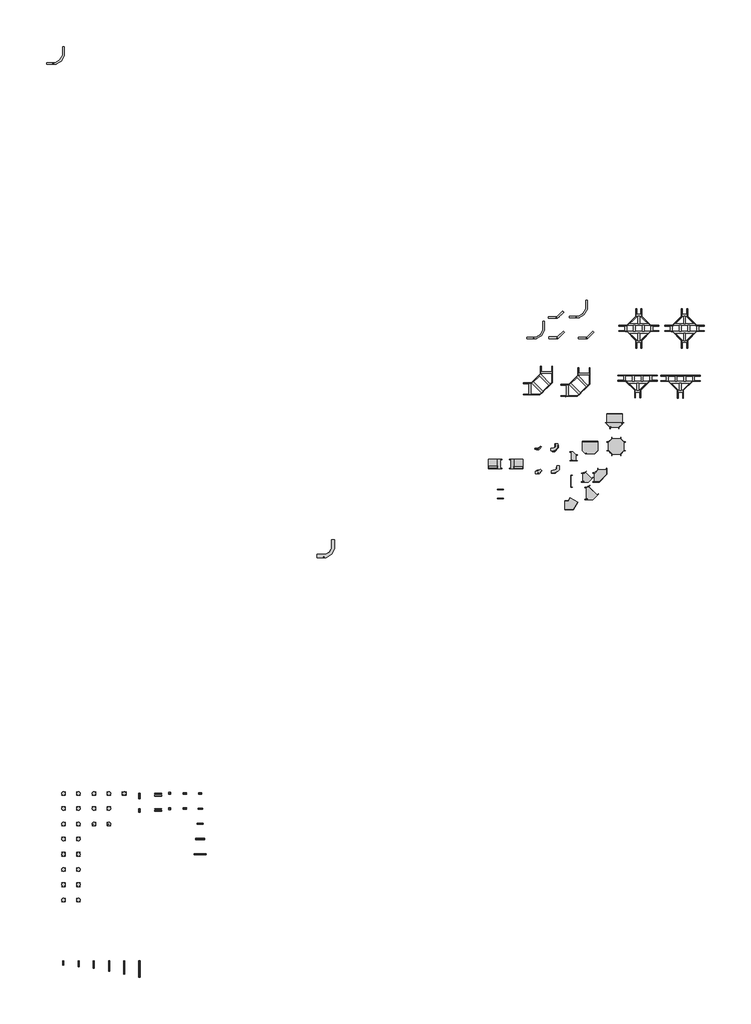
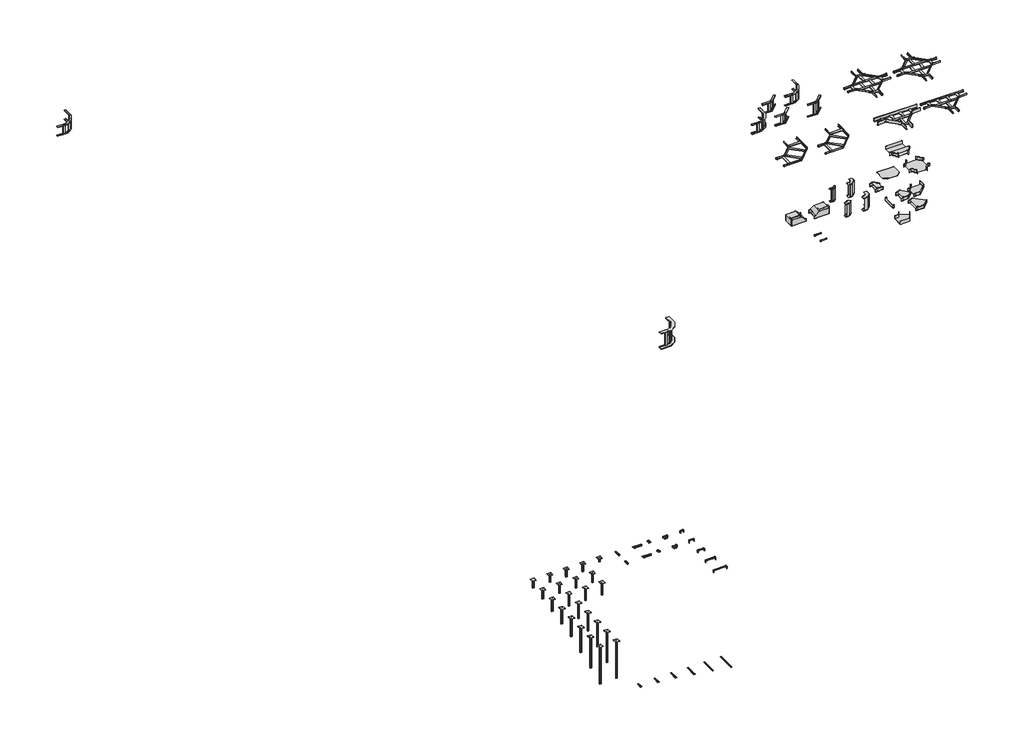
# One storey, incomplete: 42 proxies, 37 cable carrier fittings.
"""IFC4 building model written with IfcOpenShell, lengths in millimetres."""

from ifc_helpers import new_model, si_unit, origin, place, context, project, spatial, transform, mapped, element, save
from components import generic_models_40aa2584, generic_models_932f35b6, generic_models_3aaec662, generic_models_c162aa8f, generic_models_ff980f85, generic_models_6e2b5e47, generic_models_558c0930, generic_models_236f3ef3, generic_models_f578f368, generic_models_0390d1ad, generic_models_a3f2ea63, generic_models_736fe222, generic_models_55f142c9, generic_models_6eeadc8e, generic_models_a440815e, okb_c7ba4bf2, okm_523b57e4, pst1000_420f6fb0, pst1200_ad20b11f, pst250_26485013, pst300_8e1cfdff, pst400_6ce9062d, pst500_9f6673d8, pst600_b876f94e, pst800_dcbf87bc, sps100_17b1288e, sps150_d7ba73ae, sps200_42d4b807, sps300_ad1d5cba, sps400_334b0b22, upp150_12ecaf3b, upp200_35eb6cb5, upp250_bc306a6a, upp350_077b014d, upp450_d01de616, upp550_d4d7eb24, upt250_07c40e42, upt300_a44f2827, upt400_fccfb55f, cable_carrier_fitting_9e5f0a06, cable_carrier_fitting_ba0ea89d, cable_carrier_fitting_62d317b6, cable_carrier_fitting_89958acc, cable_carrier_fitting_019c2cc3, cable_carrier_fitting_d3f8336c, cable_carrier_fitting_606896c7, cable_carrier_fitting_a40b3fd0, cable_carrier_fitting_00c6798b, cable_carrier_fitting_76a80729, cable_carrier_fitting_c130e9fd, cable_carrier_fitting_771aacc1, cable_carrier_fitting_28980c71, cable_carrier_fitting_a9c2bbf1, cable_carrier_fitting_7e0096a5, cable_carrier_fitting_2c5ead5b, cable_carrier_fitting_8e6cfca8, cable_carrier_fitting_df56046e, cable_carrier_fitting_7de7f101, cable_carrier_fitting_8d4a2e80, cable_carrier_fitting_0a35e445, cable_carrier_fitting_1c14abe9, cable_carrier_fitting_bcb73243, cable_carrier_fitting_205fb93f, cable_carrier_fitting_1a4faf06, cable_carrier_fitting_b00d838e, cable_carrier_fitting_356c1660, cable_carrier_fitting_4f7fa4ee, cable_carrier_fitting_0ffb0a87, cable_carrier_fitting_81b0173d, cable_carrier_fitting_b93f2783, cable_carrier_fitting_a7037c9d, cable_carrier_fitting_f4a76271, sp2_9bf6ed85

model = new_model("IFC4")

# Units and contexts
model_context = context("Model", 3, world=origin())
ifc_project = project(units=[si_unit("LENGTHUNIT", "METRE", prefix="MILLI")], contexts=[model_context])

# Site, building, storey
site = spatial("IfcSite", under=ifc_project)
building = spatial("IfcBuilding", under=site)
storey = spatial("IfcBuildingStorey", under=building, Name="Уровень 1", Elevation=0.0)

# Proxies
placement = place(None, origin())
generic_models_shape = generic_models_40aa2584(model_context)
element("IfcBuildingElementProxy", 1, Name="КМ Профиль_Стойка потолочная усиленная PSTU : PSTU250", ObjectType="КМ Профиль_Стойка потолочная усиленная PSTU : PSTU250", at=placement, inside=storey, context=model_context, shape_type="MappedRepresentation", body=[
    mapped(generic_models_shape, transform((-10327.4801556, -8355.2464718, 0.0), x_axis=(1.0, 0.0, 0.0), y_axis=(0.0, 1.0, 0.0), z_axis=(0.0, 0.0, 1.0))),
])
generic_models_2_shape = generic_models_932f35b6(model_context)
element("IfcBuildingElementProxy", 2, Name="КМ Профиль_Стойка потолочная усиленная PSTU : PSTU300", ObjectType="КМ Профиль_Стойка потолочная усиленная PSTU : PSTU300", at=placement, inside=storey, context=model_context, shape_type="MappedRepresentation", body=[
    mapped(generic_models_2_shape, transform((-10327.4801556, -8855.2464718, 0.0), x_axis=(1.0, 0.0, 0.0), y_axis=(0.0, 1.0, 0.0), z_axis=(0.0, 0.0, 1.0))),
])
generic_models_3_shape = generic_models_3aaec662(model_context)
element("IfcBuildingElementProxy", 3, Name="КМ Профиль_Стойка потолочная усиленная PSTU : PSTU400", ObjectType="КМ Профиль_Стойка потолочная усиленная PSTU : PSTU400", at=placement, inside=storey, context=model_context, shape_type="MappedRepresentation", body=[
    mapped(generic_models_3_shape, transform((-10327.4801556, -9355.2464718, 0.0), x_axis=(1.0, 0.0, 0.0), y_axis=(0.0, 1.0, 0.0), z_axis=(0.0, 0.0, 1.0))),
])
generic_models_4_shape = generic_models_c162aa8f(model_context)
element("IfcBuildingElementProxy", 4, Name="КМ Профиль_Стойка потолочная усиленная PSTU : PSTU500", ObjectType="КМ Профиль_Стойка потолочная усиленная PSTU : PSTU500", at=placement, inside=storey, context=model_context, shape_type="MappedRepresentation", body=[
    mapped(generic_models_4_shape, transform((-10327.4801556, -9855.2464718, 0.0), x_axis=(1.0, 0.0, 0.0), y_axis=(0.0, 1.0, 0.0), z_axis=(0.0, 0.0, 1.0))),
])
generic_models_5_shape = generic_models_ff980f85(model_context)
element("IfcBuildingElementProxy", 5, Name="КМ Профиль_Стойка потолочная усиленная PSTU : PSTU600", ObjectType="КМ Профиль_Стойка потолочная усиленная PSTU : PSTU600", at=placement, inside=storey, context=model_context, shape_type="MappedRepresentation", body=[
    mapped(generic_models_5_shape, transform((-10327.4801556, -10355.2464718, 0.0), x_axis=(1.0, 0.0, 0.0), y_axis=(0.0, 1.0, 0.0), z_axis=(0.0, 0.0, 1.0))),
])
generic_models_6_shape = generic_models_6e2b5e47(model_context)
element("IfcBuildingElementProxy", 6, Name="КМ Профиль_Стойка потолочная усиленная PSTU : PSTU800", ObjectType="КМ Профиль_Стойка потолочная усиленная PSTU : PSTU800", at=placement, inside=storey, context=model_context, shape_type="MappedRepresentation", body=[
    mapped(generic_models_6_shape, transform((-10327.4801556, -10855.2464718, 0.0), x_axis=(1.0, 0.0, 0.0), y_axis=(0.0, 1.0, 0.0), z_axis=(0.0, 0.0, 1.0))),
])
generic_models_7_shape = generic_models_558c0930(model_context)
element("IfcBuildingElementProxy", 7, Name="КМ Профиль_Стойка потолочная усиленная PSTU : PSTU1000", ObjectType="КМ Профиль_Стойка потолочная усиленная PSTU : PSTU1000", at=placement, inside=storey, context=model_context, shape_type="MappedRepresentation", body=[
    mapped(generic_models_7_shape, transform((-10327.4801556, -11355.2464718, 0.0), x_axis=(1.0, 0.0, 0.0), y_axis=(0.0, 1.0, 0.0), z_axis=(0.0, 0.0, 1.0))),
])
generic_models_8_shape = generic_models_236f3ef3(model_context)
element("IfcBuildingElementProxy", 8, Name="КМ Профиль_Стойка потолочная усиленная PSTU : PSTU1200", ObjectType="КМ Профиль_Стойка потолочная усиленная PSTU : PSTU1200", at=placement, inside=storey, context=model_context, shape_type="MappedRepresentation", body=[
    mapped(generic_models_8_shape, transform((-10327.4801556, -11855.2464718, 0.0), x_axis=(1.0, 0.0, 0.0), y_axis=(0.0, 1.0, 0.0), z_axis=(0.0, 0.0, 1.0))),
])
generic_models_9_shape = generic_models_f578f368(model_context)
element("IfcBuildingElementProxy", 9, Name="КМ Профиль_Универсальная потолочная стойка усиленная UPTU : UPTU250", ObjectType="КМ Профиль_Универсальная потолочная стойка усиленная UPTU : UPTU250", at=placement, inside=storey, context=model_context, shape_type="MappedRepresentation", body=[
    mapped(generic_models_9_shape, transform((-8827.4801556, -8355.2464718, 0.0), x_axis=(1.0, 0.0, 0.0), y_axis=(0.0, 1.0, 0.0), z_axis=(0.0, 0.0, 1.0))),
])
generic_models_10_shape = generic_models_0390d1ad(model_context)
element("IfcBuildingElementProxy", 10, Name="КМ Профиль_Универсальная потолочная стойка усиленная UPTU : UPTU300", ObjectType="КМ Профиль_Универсальная потолочная стойка усиленная UPTU : UPTU300", at=placement, inside=storey, context=model_context, shape_type="MappedRepresentation", body=[
    mapped(generic_models_10_shape, transform((-8827.4801556, -8855.2464718, 0.0), x_axis=(1.0, 0.0, 0.0), y_axis=(0.0, 1.0, 0.0), z_axis=(0.0, 0.0, 1.0))),
])
generic_models_11_shape = generic_models_a3f2ea63(model_context)
element("IfcBuildingElementProxy", 11, Name="КМ Профиль_Универсальная потолочная стойка усиленная UPTU : UPTU400", ObjectType="КМ Профиль_Универсальная потолочная стойка усиленная UPTU : UPTU400", at=placement, inside=storey, context=model_context, shape_type="MappedRepresentation", body=[
    mapped(generic_models_11_shape, transform((-8827.4801556, -9355.2464718, 0.0), x_axis=(1.0, 0.0, 0.0), y_axis=(0.0, 1.0, 0.0), z_axis=(0.0, 0.0, 1.0))),
])
generic_models_12_shape = generic_models_736fe222(model_context)
element("IfcBuildingElementProxy", 12, Name="КМ Профиль_Основание потолочной стойки OUPT : OUPT", ObjectType="КМ Профиль_Основание потолочной стойки OUPT : OUPT", at=placement, inside=storey, context=model_context, shape_type="MappedRepresentation", body=[
    mapped(generic_models_12_shape, transform((-8327.4801556, -8355.2464718, 0.0), x_axis=(1.0, 0.0, 0.0), y_axis=(0.0, 1.0, 0.0), z_axis=(0.0, 0.0, 1.0))),
])
generic_models_13_shape = generic_models_55f142c9(model_context)
element("IfcBuildingElementProxy", 13, Name="КМ Профиль_Кронштейн настенный соединительный LSPN : LSPN", ObjectType="КМ Профиль_Кронштейн настенный соединительный LSPN : LSPN", at=placement, inside=storey, context=model_context, shape_type="MappedRepresentation", body=[
    mapped(generic_models_13_shape, transform((-7327.4801556, -8355.2464718, 0.0), x_axis=(1.0, 0.0, 0.0), y_axis=(0.0, 1.0, 0.0), z_axis=(0.0, 0.0, 1.0))),
])
element("IfcBuildingElementProxy", 14, Name="КМ Профиль_Кронштейн настенный соединительный LSPN : LSPN HD", ObjectType="КМ Профиль_Кронштейн настенный соединительный LSPN : LSPN HD", at=placement, inside=storey, context=model_context, shape_type="MappedRepresentation", body=[
    mapped(generic_models_13_shape, transform((-7327.4801556, -8855.2464718, 0.0), x_axis=(1.0000000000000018, 0.0, 0.0), y_axis=(0.0, 1.0000000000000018, 0.0), z_axis=(0.0, 0.0, 1.0))),
])
generic_models_14_shape = generic_models_6eeadc8e(model_context)
element("IfcBuildingElementProxy", 15, Name="КМ Профиль_Потолочный подвес  для шпильки PS : PS HD", ObjectType="КМ Профиль_Потолочный подвес  для шпильки PS : PS HD", at=placement, inside=storey, context=model_context, shape_type="MappedRepresentation", body=[
    mapped(generic_models_14_shape, transform((-6827.4801556, -8855.2464718, 0.0), x_axis=(1.0, 0.0, 0.0), y_axis=(0.0, 1.0, 0.0), z_axis=(0.0, 0.0, 1.0))),
])
generic_models_15_shape = generic_models_a440815e(model_context)
element("IfcBuildingElementProxy", 16, Name="КМ Профиль_Универсальная потолочна скоба UPD : UPD HD", ObjectType="КМ Профиль_Универсальная потолочна скоба UPD : UPD HD", at=placement, inside=storey, context=model_context, shape_type="MappedRepresentation", body=[
    mapped(generic_models_15_shape, transform((-6327.4801556, -8855.2464718, 0.0), x_axis=(1.0, 0.0, 0.0), y_axis=(0.0, 1.0, 0.0), z_axis=(0.0, 0.0, 1.0))),
])
okb_shape = okb_c7ba4bf2(model_context)
element("IfcBuildingElementProxy", 17, Name="КМ Профиль_Опоры для консолей ОКМ, ОКВ : OKB", ObjectType="КМ Профиль_Опоры для консолей ОКМ, ОКВ : OKB", at=placement, inside=storey, context=model_context, shape_type="MappedRepresentation", body=[
    mapped(okb_shape, transform((-7827.4801556, -8355.2464718, 0.0), x_axis=(0.0, -1.0, 0.0), y_axis=(1.0, 0.0, 0.0), z_axis=(0.0, 0.0, 1.0))),
])
okm_shape = okm_523b57e4(model_context)
element("IfcBuildingElementProxy", 18, Name="КМ Профиль_Опоры для консолей ОКМ, ОКВ : OKM", ObjectType="КМ Профиль_Опоры для консолей ОКМ, ОКВ : OKM", at=placement, inside=storey, context=model_context, shape_type="MappedRepresentation", body=[
    mapped(okm_shape, transform((-7827.4801556, -8855.2464718, 0.0), x_axis=(0.0, -1.0, 0.0), y_axis=(1.0, 0.0, 0.0), z_axis=(0.0, 0.0, 1.0))),
])
element("IfcBuildingElementProxy", 19, Name="КМ Профиль_Потолочный подвес  для шпильки PS : PS", ObjectType="КМ Профиль_Потолочный подвес  для шпильки PS : PS", at=placement, inside=storey, context=model_context, shape_type="MappedRepresentation", body=[
    mapped(generic_models_14_shape, transform((-6827.4801556, -8355.2464718, 0.0), x_axis=(1.0, 0.0, 0.0), y_axis=(0.0, 1.0, 0.0), z_axis=(0.0, 0.0, 1.0))),
])
pst1000_shape = pst1000_420f6fb0(model_context)
element("IfcBuildingElementProxy", 20, Name="КМ Профиль_Стойка потолочная облегчённая PST : PST1000", ObjectType="КМ Профиль_Стойка потолочная облегчённая PST : PST1000", at=placement, inside=storey, context=model_context, shape_type="MappedRepresentation", body=[
    mapped(pst1000_shape, transform((-9827.4801556, -11355.2464718, 0.0), x_axis=(1.0, 0.0, 0.0), y_axis=(0.0, 1.0, 0.0), z_axis=(0.0, 0.0, 1.0))),
])
pst1200_shape = pst1200_ad20b11f(model_context)
element("IfcBuildingElementProxy", 21, Name="КМ Профиль_Стойка потолочная облегчённая PST : PST1200", ObjectType="КМ Профиль_Стойка потолочная облегчённая PST : PST1200", at=placement, inside=storey, context=model_context, shape_type="MappedRepresentation", body=[
    mapped(pst1200_shape, transform((-9827.4801556, -11855.2464718, 0.0), x_axis=(1.0, 0.0, 0.0), y_axis=(0.0, 1.0, 0.0), z_axis=(0.0, 0.0, 1.0))),
])
pst250_shape = pst250_26485013(model_context)
element("IfcBuildingElementProxy", 22, Name="КМ Профиль_Стойка потолочная облегчённая PST : PST250", ObjectType="КМ Профиль_Стойка потолочная облегчённая PST : PST250", at=placement, inside=storey, context=model_context, shape_type="MappedRepresentation", body=[
    mapped(pst250_shape, transform((-9827.4801556, -8355.2464718, 0.0), x_axis=(1.0, 0.0, 0.0), y_axis=(0.0, 1.0, 0.0), z_axis=(0.0, 0.0, 1.0))),
])
pst300_shape = pst300_8e1cfdff(model_context)
element("IfcBuildingElementProxy", 23, Name="КМ Профиль_Стойка потолочная облегчённая PST : PST300", ObjectType="КМ Профиль_Стойка потолочная облегчённая PST : PST300", at=placement, inside=storey, context=model_context, shape_type="MappedRepresentation", body=[
    mapped(pst300_shape, transform((-9827.4801556, -8855.2464718, 0.0), x_axis=(1.0, 0.0, 0.0), y_axis=(0.0, 1.0, 0.0), z_axis=(0.0, 0.0, 1.0))),
])
pst400_shape = pst400_6ce9062d(model_context)
element("IfcBuildingElementProxy", 24, Name="КМ Профиль_Стойка потолочная облегчённая PST : PST400", ObjectType="КМ Профиль_Стойка потолочная облегчённая PST : PST400", at=placement, inside=storey, context=model_context, shape_type="MappedRepresentation", body=[
    mapped(pst400_shape, transform((-9827.4801556, -9355.2464718, 0.0), x_axis=(1.0, 0.0, 0.0), y_axis=(0.0, 1.0, 0.0), z_axis=(0.0, 0.0, 1.0))),
])
pst500_shape = pst500_9f6673d8(model_context)
element("IfcBuildingElementProxy", 25, Name="КМ Профиль_Стойка потолочная облегчённая PST : PST500", ObjectType="КМ Профиль_Стойка потолочная облегчённая PST : PST500", at=placement, inside=storey, context=model_context, shape_type="MappedRepresentation", body=[
    mapped(pst500_shape, transform((-9827.4801556, -9855.2464718, 0.0), x_axis=(1.0, 0.0, 0.0), y_axis=(0.0, 1.0, 0.0), z_axis=(0.0, 0.0, 1.0))),
])
pst600_shape = pst600_b876f94e(model_context)
element("IfcBuildingElementProxy", 26, Name="КМ Профиль_Стойка потолочная облегчённая PST : PST600", ObjectType="КМ Профиль_Стойка потолочная облегчённая PST : PST600", at=placement, inside=storey, context=model_context, shape_type="MappedRepresentation", body=[
    mapped(pst600_shape, transform((-9827.4801556, -10355.2464718, 0.0), x_axis=(1.0, 0.0, 0.0), y_axis=(0.0, 1.0, 0.0), z_axis=(0.0, 0.0, 1.0))),
])
pst800_shape = pst800_dcbf87bc(model_context)
element("IfcBuildingElementProxy", 27, Name="КМ Профиль_Стойка потолочная облегчённая PST : PST800", ObjectType="КМ Профиль_Стойка потолочная облегчённая PST : PST800", at=placement, inside=storey, context=model_context, shape_type="MappedRepresentation", body=[
    mapped(pst800_shape, transform((-9827.4801556, -10855.2464718, 0.0), x_axis=(1.0, 0.0, 0.0), y_axis=(0.0, 1.0, 0.0), z_axis=(0.0, 0.0, 1.0))),
])
sps100_shape = sps100_17b1288e(model_context)
element("IfcBuildingElementProxy", 28, Name="КМ Профиль_Скоба для подвеса на шпильке SPS : SPS100", ObjectType="КМ Профиль_Скоба для подвеса на шпильке SPS : SPS100", at=placement, inside=storey, context=model_context, shape_type="MappedRepresentation", body=[
    mapped(sps100_shape, transform((-5827.4801556, -8355.2464718, 0.0), x_axis=(0.0, 1.0, 0.0), y_axis=(-1.0, 0.0, 0.0), z_axis=(0.0, 0.0, 1.0))),
])
sps150_shape = sps150_d7ba73ae(model_context)
element("IfcBuildingElementProxy", 29, Name="КМ Профиль_Скоба для подвеса на шпильке SPS : SPS150", ObjectType="КМ Профиль_Скоба для подвеса на шпильке SPS : SPS150", at=placement, inside=storey, context=model_context, shape_type="MappedRepresentation", body=[
    mapped(sps150_shape, transform((-5827.4801556, -8855.2464718, 0.0), x_axis=(0.0, 1.0, 0.0), y_axis=(-1.0, 0.0, 0.0), z_axis=(0.0, 0.0, 1.0))),
])
sps200_shape = sps200_42d4b807(model_context)
element("IfcBuildingElementProxy", 30, Name="КМ Профиль_Скоба для подвеса на шпильке SPS : SPS200", ObjectType="КМ Профиль_Скоба для подвеса на шпильке SPS : SPS200", at=placement, inside=storey, context=model_context, shape_type="MappedRepresentation", body=[
    mapped(sps200_shape, transform((-5827.4801556, -9355.2464718, 0.0), x_axis=(0.0, 1.0, 0.0), y_axis=(-1.0, 0.0, 0.0), z_axis=(0.0, 0.0, 1.0))),
])
sps300_shape = sps300_ad1d5cba(model_context)
element("IfcBuildingElementProxy", 31, Name="КМ Профиль_Скоба для подвеса на шпильке SPS : SPS300", ObjectType="КМ Профиль_Скоба для подвеса на шпильке SPS : SPS300", at=placement, inside=storey, context=model_context, shape_type="MappedRepresentation", body=[
    mapped(sps300_shape, transform((-5827.4801556, -9855.2464718, 0.0), x_axis=(0.0, 1.0, 0.0), y_axis=(-1.0, 0.0, 0.0), z_axis=(0.0, 0.0, 1.0))),
])
sps400_shape = sps400_334b0b22(model_context)
element("IfcBuildingElementProxy", 32, Name="КМ Профиль_Скоба для подвеса на шпильке SPS : SPS400", ObjectType="КМ Профиль_Скоба для подвеса на шпильке SPS : SPS400", at=placement, inside=storey, context=model_context, shape_type="MappedRepresentation", body=[
    mapped(sps400_shape, transform((-5827.4801556, -10355.2464718, 0.0), x_axis=(0.0, 1.0, 0.0), y_axis=(-1.0, 0.0, 0.0), z_axis=(0.0, 0.0, 1.0))),
])
element("IfcBuildingElementProxy", 33, Name="КМ Профиль_Универсальная потолочна скоба UPD : UPD", ObjectType="КМ Профиль_Универсальная потолочна скоба UPD : UPD", at=placement, inside=storey, context=model_context, shape_type="MappedRepresentation", body=[
    mapped(generic_models_15_shape, transform((-6327.4801556, -8355.2464718, 0.0), x_axis=(1.0, 0.0, 0.0), y_axis=(0.0, 1.0, 0.0), z_axis=(0.0, 0.0, 1.0))),
])
upp150_shape = upp150_12ecaf3b(model_context)
element("IfcBuildingElementProxy", 34, Name="КМ Профиль_Универсальный поддерживающий профиль UPP : UPP150", ObjectType="КМ Профиль_Универсальный поддерживающий профиль UPP : UPP150", at=placement, inside=storey, context=model_context, shape_type="MappedRepresentation", body=[
    mapped(upp150_shape, transform((-10327.4801556, -13855.2464718, 0.0), x_axis=(0.0, -1.0, 0.0), y_axis=(1.0, 0.0, 0.0), z_axis=(0.0, 0.0, 1.0))),
])
upp200_shape = upp200_35eb6cb5(model_context)
element("IfcBuildingElementProxy", 35, Name="КМ Профиль_Универсальный поддерживающий профиль UPP : UPP200", ObjectType="КМ Профиль_Универсальный поддерживающий профиль UPP : UPP200", at=placement, inside=storey, context=model_context, shape_type="MappedRepresentation", body=[
    mapped(upp200_shape, transform((-9827.4801556, -13855.2464718, 0.0), x_axis=(0.0, -1.0000000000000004, 0.0), y_axis=(1.0000000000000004, 0.0, 0.0), z_axis=(0.0, 0.0, 1.0))),
])
upp250_shape = upp250_bc306a6a(model_context)
element("IfcBuildingElementProxy", 36, Name="КМ Профиль_Универсальный поддерживающий профиль UPP : UPP250", ObjectType="КМ Профиль_Универсальный поддерживающий профиль UPP : UPP250", at=placement, inside=storey, context=model_context, shape_type="MappedRepresentation", body=[
    mapped(upp250_shape, transform((-9327.4801556, -13855.2464718, 0.0), x_axis=(0.0, -1.0000000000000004, 0.0), y_axis=(1.0000000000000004, 0.0, 0.0), z_axis=(0.0, 0.0, 1.0))),
])
upp350_shape = upp350_077b014d(model_context)
element("IfcBuildingElementProxy", 37, Name="КМ Профиль_Универсальный поддерживающий профиль UPP : UPP350", ObjectType="КМ Профиль_Универсальный поддерживающий профиль UPP : UPP350", at=placement, inside=storey, context=model_context, shape_type="MappedRepresentation", body=[
    mapped(upp350_shape, transform((-8827.4801556, -13855.2464718, 0.0), x_axis=(0.0, -1.0000000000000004, 0.0), y_axis=(1.0000000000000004, 0.0, 0.0), z_axis=(0.0, 0.0, 1.0))),
])
upp450_shape = upp450_d01de616(model_context)
element("IfcBuildingElementProxy", 38, Name="КМ Профиль_Универсальный поддерживающий профиль UPP : UPP450", ObjectType="КМ Профиль_Универсальный поддерживающий профиль UPP : UPP450", at=placement, inside=storey, context=model_context, shape_type="MappedRepresentation", body=[
    mapped(upp450_shape, transform((-8327.4801556, -13855.2464718, 0.0), x_axis=(0.0, -1.0000000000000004, 0.0), y_axis=(1.0000000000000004, 0.0, 0.0), z_axis=(0.0, 0.0, 1.0))),
])
upp550_shape = upp550_d4d7eb24(model_context)
element("IfcBuildingElementProxy", 39, Name="КМ Профиль_Универсальный поддерживающий профиль UPP : UPP550", ObjectType="КМ Профиль_Универсальный поддерживающий профиль UPP : UPP550", at=placement, inside=storey, context=model_context, shape_type="MappedRepresentation", body=[
    mapped(upp550_shape, transform((-7827.4801556, -13855.2464718, 0.0), x_axis=(0.0, -1.0000000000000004, 0.0), y_axis=(1.0000000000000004, 0.0, 0.0), z_axis=(0.0, 0.0, 1.0))),
])
upt250_shape = upt250_07c40e42(model_context)
element("IfcBuildingElementProxy", 40, Name="КМ Профиль_Универсальная потолочная стойка UPT : UPT250", ObjectType="КМ Профиль_Универсальная потолочная стойка UPT : UPT250", at=placement, inside=storey, context=model_context, shape_type="MappedRepresentation", body=[
    mapped(upt250_shape, transform((-9327.4801556, -8355.2464718, 0.0), x_axis=(1.0, 0.0, 0.0), y_axis=(0.0, 1.0, 0.0), z_axis=(0.0, 0.0, 1.0))),
])
upt300_shape = upt300_a44f2827(model_context)
element("IfcBuildingElementProxy", 41, Name="КМ Профиль_Универсальная потолочная стойка UPT : UPT300", ObjectType="КМ Профиль_Универсальная потолочная стойка UPT : UPT300", at=placement, inside=storey, context=model_context, shape_type="MappedRepresentation", body=[
    mapped(upt300_shape, transform((-9327.4801556, -8855.2464718, 0.0), x_axis=(1.0, 0.0, 0.0), y_axis=(0.0, 1.0, 0.0), z_axis=(0.0, 0.0, 1.0))),
])
upt400_shape = upt400_fccfb55f(model_context)
element("IfcBuildingElementProxy", 42, Name="КМ Профиль_Универсальная потолочная стойка UPT : UPT400", ObjectType="КМ Профиль_Универсальная потолочная стойка UPT : UPT400", at=placement, inside=storey, context=model_context, shape_type="MappedRepresentation", body=[
    mapped(upt400_shape, transform((-9327.4801556, -9355.2464718, 0.0), x_axis=(1.0, 0.0, 0.0), y_axis=(0.0, 1.0, 0.0), z_axis=(0.0, 0.0, 1.0))),
])

# Cable carrier fittings
cable_carrier_fitting_shape = cable_carrier_fitting_9e5f0a06(model_context)
element("IfcCableCarrierFitting", 43, ObjectType="КМ Профиль L Угол вертикальный внутренний «Быстрый монтаж» : Угол вертикальный внутренний «Быстрый монтаж»", at=placement, inside=storey, context=model_context, shape_type="MappedRepresentation", body=[
    mapped(cable_carrier_fitting_shape, transform((6906.2233608, 6624.2615113, 0.0), x_axis=(1.0, 0.0, 0.0), y_axis=(0.0, 1.0, 0.0), z_axis=(0.0, 0.0, 1.0))),
])
cable_carrier_fitting_2_shape = cable_carrier_fitting_ba0ea89d(model_context)
element("IfcCableCarrierFitting", 44, ObjectType="КМ Профиль Угол внутренний вертикальный с разворотом трассы на 90 NLPD90-L : Угол внутренний вертикальный с разворотом трассы на 90 NLPD90-L", at=placement, inside=storey, context=model_context, shape_type="MappedRepresentation", body=[
    mapped(cable_carrier_fitting_2_shape, transform((4643.0134544, 2473.7026124, 0.0), x_axis=(1.0, 0.0, 0.0), y_axis=(0.0, 0.0, -1.0000000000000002), z_axis=(0.0, 1.0000000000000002, 0.0))),
])
cable_carrier_fitting_3_shape = cable_carrier_fitting_62d317b6(model_context)
element("IfcCableCarrierFitting", 45, ObjectType="КМ Профиль Заглушка ZU : Заглушка ZU", at=placement, inside=storey, context=model_context, shape_type="MappedRepresentation", body=[
    mapped(cable_carrier_fitting_3_shape, transform((6361.5957339, 1910.7645198, 0.0), x_axis=(1.0, 0.0, 0.0), y_axis=(0.0, 1.0, 0.0), z_axis=(0.0, 0.0, 1.0))),
])
cable_carrier_fitting_4_shape = cable_carrier_fitting_89958acc(model_context)
element("IfcCableCarrierFitting", 46, ObjectType="КМ Профиль Крышка Т-отвода KTD : Крышка Т-отвода KTD", at=placement, inside=storey, context=model_context, shape_type="MappedRepresentation", body=[
    mapped(cable_carrier_fitting_4_shape, transform((7002.2748074, 3064.2906712, 50.0), x_axis=(1.0, 0.0, 0.0), y_axis=(0.0, 1.0, 0.0), z_axis=(0.0, 0.0, 1.0))),
])
cable_carrier_fitting_5_shape = cable_carrier_fitting_019c2cc3(model_context)
element("IfcCableCarrierFitting", 47, ObjectType="КМ Профиль Угол горизонтальный 2x : КМ Профиль Угол горизонтальный 2x", at=placement, inside=storey, context=model_context, shape_type="MappedRepresentation", body=[
    mapped(cable_carrier_fitting_5_shape, transform((6366.8372399, 1113.058197, 0.0), x_axis=(1.0, 0.0, 0.0), y_axis=(0.0, 1.0, 0.0), z_axis=(0.0, 0.0, 1.0))),
])
cable_carrier_fitting_6_shape = cable_carrier_fitting_d3f8336c(model_context)
element("IfcCableCarrierFitting", 48, ObjectType="КМ Профиль L Угол горизонтальный «Быстрый монтаж» LGLS90 : Угол горизонтальный «Быстрый монтаж» LGLS90", at=placement, inside=storey, context=model_context, shape_type="MappedRepresentation", body=[
    mapped(cable_carrier_fitting_6_shape, transform((5563.0133373, 4944.7143387, 0.0), x_axis=(1.0, 0.0, 0.0), y_axis=(0.0, 1.0, 0.0), z_axis=(0.0, 0.0, 1.0))),
])
cable_carrier_fitting_7_shape = cable_carrier_fitting_606896c7(model_context)
element("IfcCableCarrierFitting", 49, ObjectType="КМ Профиль Крышка угла горизонтального KGL45 : Крышка угла горизонтального KGL45", at=placement, inside=storey, context=model_context, shape_type="MappedRepresentation", body=[
    mapped(cable_carrier_fitting_7_shape, transform((6875.1225344, 2027.2135605, 50.0), x_axis=(1.0, 0.0, 0.0), y_axis=(0.0, 1.0, 0.0), z_axis=(0.0, 0.0, 1.0))),
])
cable_carrier_fitting_8_shape = cable_carrier_fitting_a40b3fd0(model_context)
element("IfcCableCarrierFitting", 50, ObjectType="КМ Профиль L X-Разветвитель : X-Разветвитель", at=placement, inside=storey, context=model_context, shape_type="MappedRepresentation", body=[
    mapped(cable_carrier_fitting_8_shape, transform((8603.7332858, 6932.1397739, 0.0), x_axis=(1.0, 0.0, 0.0), y_axis=(0.0, 1.0, 0.0), z_axis=(0.0, 0.0, 1.0))),
])
element("IfcCableCarrierFitting", 51, ObjectType="КМ Профиль L X-Разветвитель «Быстрый монтаж» : X-Разветвитель «Быстрый монтаж»", at=placement, inside=storey, context=model_context, shape_type="MappedRepresentation", body=[
    mapped(cable_carrier_fitting_8_shape, transform((10108.0985125, 6932.1397739, 0.0), x_axis=(1.0, 0.0, 0.0), y_axis=(0.0, 1.0, 0.0), z_axis=(0.0, 0.0, 1.0))),
])
cable_carrier_fitting_9_shape = cable_carrier_fitting_00c6798b(model_context)
element("IfcCableCarrierFitting", 52, ObjectType="КМ Профиль L Т-отвод «Быстрый монтаж» : Т-отвод «Быстрый монтаж»", at=placement, inside=storey, context=model_context, shape_type="MappedRepresentation", body=[
    mapped(cable_carrier_fitting_9_shape, transform((9970.7315949, 5292.1197368, 0.0), x_axis=(1.0, 0.0, 0.0), y_axis=(0.0, 1.0, 0.0), z_axis=(0.0, 0.0, 1.0))),
])
cable_carrier_fitting_10_shape = cable_carrier_fitting_76a80729(model_context)
element("IfcCableCarrierFitting", 53, ObjectType="КМ Профиль L Угол вертикальный внешний «Быстрый монтаж» 45° : Угол вертикальный внешний «Быстрый монтаж» 45°", at=placement, inside=storey, context=model_context, shape_type="MappedRepresentation", body=[
    mapped(cable_carrier_fitting_10_shape, transform((5935.4164357, 6626.1965313, 0.0), x_axis=(1.0, 0.0, 0.0), y_axis=(0.0, 1.0, 0.0), z_axis=(0.0, 0.0, 1.0))),
])
cable_carrier_fitting_11_shape = cable_carrier_fitting_c130e9fd(model_context)
element("IfcCableCarrierFitting", 54, ObjectType="КМ Профиль L Угол вертикальный внешний «Быстрый монтаж» 90° : Угол вертикальный внешний «Быстрый монтаж» 90°", at=placement, inside=storey, context=model_context, shape_type="MappedRepresentation", body=[
    mapped(cable_carrier_fitting_11_shape, transform((5477.6748398, 6615.2811264, 0.0), x_axis=(1.0, 0.0, 0.0), y_axis=(0.0, 1.0, 0.0), z_axis=(0.0, 0.0, 1.0))),
])
cable_carrier_fitting_12_shape = cable_carrier_fitting_771aacc1(model_context)
element("IfcCableCarrierFitting", 55, ObjectType="КМ Профиль L Угол вертикальный внутренний «Быстрый монтаж» : Угол вертикальный внутренний «Быстрый монтаж»", at=placement, inside=storey, context=model_context, shape_type="MappedRepresentation", body=[
    mapped(cable_carrier_fitting_12_shape, transform((6878.8043213, 7306.1543511, 0.0), x_axis=(1.0, 0.0, 0.0), y_axis=(0.0, 1.0, 0.0), z_axis=(0.0, 0.0, 1.0))),
])
cable_carrier_fitting_13_shape = cable_carrier_fitting_28980c71(model_context)
element("IfcCableCarrierFitting", 56, ObjectType="КМ Профиль L Угол горизонтальный LGL90 : Угол горизонтальный LGL90", at=placement, inside=storey, context=model_context, shape_type="MappedRepresentation", body=[
    mapped(cable_carrier_fitting_13_shape, transform((6795.9304997, 4894.7668909, 0.0), x_axis=(1.0, 0.0, 0.0), y_axis=(0.0, 1.0, 0.0), z_axis=(0.0, 0.0, 1.0))),
])
cable_carrier_fitting_14_shape = cable_carrier_fitting_a9c2bbf1(model_context)
element("IfcCableCarrierFitting", 57, ObjectType="КМ Профиль Угол горизонтальный GL45 : Угол горизонтальный GL45", at=placement, inside=storey, context=model_context, shape_type="MappedRepresentation", body=[
    mapped(cable_carrier_fitting_14_shape, transform((6875.1225344, 2027.2135605, 0.0), x_axis=(1.0, 0.0, 0.0), y_axis=(0.0, 1.0, 0.0), z_axis=(0.0, 0.0, 1.0))),
])
cable_carrier_fitting_15_shape = cable_carrier_fitting_7e0096a5(model_context)
element("IfcCableCarrierFitting", 58, ObjectType="КМ Профиль Угол горизонтальный GL90 : Угол горизонтальный GL90", at=placement, inside=storey, context=model_context, shape_type="MappedRepresentation", body=[
    mapped(cable_carrier_fitting_15_shape, transform((7399.0012236, 2033.2046008, 0.0), x_axis=(1.0, 0.0, 0.0), y_axis=(0.0, 1.0, 0.0), z_axis=(0.0, 0.0, 1.0))),
])
cable_carrier_fitting_16_shape = cable_carrier_fitting_2c5ead5b(model_context)
element("IfcCableCarrierFitting", 59, ObjectType="КМ Профиль Крышка Т-ответвителя : Крышка Т-ответвителя", at=placement, inside=storey, context=model_context, shape_type="MappedRepresentation", body=[
    mapped(cable_carrier_fitting_16_shape, transform((7803.9238078, 3831.4193475, 50.0), x_axis=(1.0, 0.0, 0.0), y_axis=(0.0, 1.0, 0.0), z_axis=(0.0, 0.0, 1.0))),
])
cable_carrier_fitting_17_shape = cable_carrier_fitting_8e6cfca8(model_context)
element("IfcCableCarrierFitting", 60, ObjectType="КМ Профиль Угол внутренний вертикальный с разворотом трассы на 90 NLPD90-R : Угол внутренний вертикальный с разворотом трассы на 90 NLPD90-R", at=placement, inside=storey, context=model_context, shape_type="MappedRepresentation", body=[
    mapped(cable_carrier_fitting_17_shape, transform((3804.6384467, 2476.7052727, 0.0), x_axis=(-1.0, 0.0, 0.0), y_axis=(0.0, 0.0, -1.000000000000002), z_axis=(0.0, -1.000000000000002, 0.0))),
])
cable_carrier_fitting_18_shape = cable_carrier_fitting_df56046e(model_context)
element("IfcCableCarrierFitting", 61, ObjectType="КМ Профиль L Угол вертикальный внутренний «Быстрый монтаж» 45° : Угол вертикальный внутренний «Быстрый монтаж» 45°", at=placement, inside=storey, context=model_context, shape_type="MappedRepresentation", body=[
    mapped(cable_carrier_fitting_18_shape, transform((5912.2328557, 7285.5159518, 0.0), x_axis=(1.0, 0.0, 0.0), y_axis=(0.0, 1.0, 0.0), z_axis=(0.0, 0.0, 1.0))),
])
cable_carrier_fitting_19_shape = cable_carrier_fitting_7de7f101(model_context)
element("IfcCableCarrierFitting", 62, ObjectType="КМ Профиль L Т-отвод : Т-отвод", at=placement, inside=storey, context=model_context, shape_type="MappedRepresentation", body=[
    mapped(cable_carrier_fitting_19_shape, transform((8567.1882222, 5297.917357, 0.0), x_axis=(1.0, 0.0, 0.0), y_axis=(0.0, 1.0, 0.0), z_axis=(0.0, 0.0, 1.0))),
])
cable_carrier_fitting_20_shape = cable_carrier_fitting_8d4a2e80(model_context)
element("IfcCableCarrierFitting", 63, ObjectType="КМ Профиль L Угол вертикальный внешний «Быстрый монтаж» : Угол вертикальный внешний «Быстрый монтаж»", at=placement, inside=storey, context=model_context, shape_type="MappedRepresentation", body=[
    mapped(cable_carrier_fitting_20_shape, transform((-1449.8242531, -548.6664763, 0.0), x_axis=(1.0, 0.0, 0.0), y_axis=(0.0, 1.0, 0.0), z_axis=(0.0, 0.0, 1.0))),
])
element("IfcCableCarrierFitting", 64, ObjectType="КМ Профиль L Угол вертикальный внутренний «Быстрый монтаж» 90° : Угол вертикальный внутренний «Быстрый монтаж» 90°", at=placement, inside=storey, context=model_context, shape_type="MappedRepresentation", body=[
    mapped(cable_carrier_fitting_12_shape, transform((-10327.4801556, 15644.7535282, 0.0), x_axis=(1.0, 0.0, 0.0), y_axis=(0.0, 1.0000000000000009, 0.0), z_axis=(0.0, 0.0, 1.0000000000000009))),
])
cable_carrier_fitting_21_shape = cable_carrier_fitting_0a35e445(model_context)
element("IfcCableCarrierFitting", 65, ObjectType="КМ Профиль Т-образный ответвитель : Т-образный ответвитель TU", at=placement, inside=storey, context=model_context, shape_type="MappedRepresentation", body=[
    mapped(cable_carrier_fitting_21_shape, transform((7803.9238078, 3981.4193475, 0.0), x_axis=(1.0, 0.0, 0.0), y_axis=(0.0, 1.0, 0.0), z_axis=(0.0, 0.0, 1.0))),
])
cable_carrier_fitting_22_shape = cable_carrier_fitting_1c14abe9(model_context)
element("IfcCableCarrierFitting", 66, ObjectType="КМ Профиль Переходник по ширине PD : Переходник по ширине PD", at=placement, inside=storey, context=model_context, shape_type="MappedRepresentation", body=[
    mapped(cable_carrier_fitting_22_shape, transform((6433.4604163, 2725.7039521, 0.0), x_axis=(1.0, 0.0, 0.0), y_axis=(0.0, 1.0, 0.0), z_axis=(0.0, 0.0, 1.0))),
])
cable_carrier_fitting_23_shape = cable_carrier_fitting_bcb73243(model_context)
element("IfcCableCarrierFitting", 67, ObjectType="КМ Профиль Крышка переходника по ширине KPD : Крышка переходника по ширине KPD", at=placement, inside=storey, context=model_context, shape_type="MappedRepresentation", body=[
    mapped(cable_carrier_fitting_23_shape, transform((6433.4604163, 2725.7039521, 50.0), x_axis=(1.0, 0.0, 0.0), y_axis=(0.0, 1.0, 0.0), z_axis=(0.0, 0.0, 1.0))),
])
cable_carrier_fitting_24_shape = cable_carrier_fitting_205fb93f(model_context)
element("IfcCableCarrierFitting", 68, ObjectType="КМ Профиль Крышка угла горизонтального KGL45 : Крышка угла горизонтального KGL45", at=placement, inside=storey, context=model_context, shape_type="MappedRepresentation", body=[
    mapped(cable_carrier_fitting_24_shape, transform((7002.6757649, 1504.9260609, 50.0), x_axis=(1.0, 0.0, 0.0), y_axis=(0.0, 1.0, 0.0), z_axis=(0.0, 0.0, 1.0))),
])
cable_carrier_fitting_25_shape = cable_carrier_fitting_1a4faf06(model_context)
element("IfcCableCarrierFitting", 69, ObjectType="КМ Профиль Х-разветвитель XD : Х-разветвитель XD", at=placement, inside=storey, context=model_context, shape_type="MappedRepresentation", body=[
    mapped(cable_carrier_fitting_25_shape, transform((7862.0251263, 3054.1171159, 0.0), x_axis=(1.0, 0.0, 0.0), y_axis=(0.0, 1.0, 0.0), z_axis=(0.0, 0.0, 1.0))),
])
cable_carrier_fitting_26_shape = cable_carrier_fitting_b00d838e(model_context)
element("IfcCableCarrierFitting", 70, ObjectType="КМ Профиль Угол горизонтальный : Угол горизонтальный", at=placement, inside=storey, context=model_context, shape_type="MappedRepresentation", body=[
    mapped(cable_carrier_fitting_26_shape, transform((7002.6757649, 1504.9260609, 0.0), x_axis=(1.0, 0.0, 0.0), y_axis=(0.0, 1.0, 0.0), z_axis=(0.0, 0.0, 1.0))),
])
cable_carrier_fitting_27_shape = cable_carrier_fitting_356c1660(model_context)
element("IfcCableCarrierFitting", 71, ObjectType="КМ Профиль Угол вертикальный внешний VL45 : Угол вертикальный внешний VL45", at=placement, inside=storey, context=model_context, shape_type="MappedRepresentation", body=[
    mapped(cable_carrier_fitting_27_shape, transform((5300.3030929, 2971.2263116, 0.0), x_axis=(1.0, 0.0, 0.0), y_axis=(0.0, 1.0, 0.0), z_axis=(0.0, 0.0, 1.0))),
])
cable_carrier_fitting_28_shape = cable_carrier_fitting_4f7fa4ee(model_context)
element("IfcCableCarrierFitting", 72, ObjectType="КМ Профиль Угол вертикальный внешний VL90 : Угол вертикальный внешний NL90", at=placement, inside=storey, context=model_context, shape_type="MappedRepresentation", body=[
    mapped(cable_carrier_fitting_28_shape, transform((5899.978102, 2938.0202577, 0.0), x_axis=(1.0, 0.0, 0.0), y_axis=(0.0, 1.0, 0.0), z_axis=(0.0, 0.0, 1.0))),
])
cable_carrier_fitting_29_shape = cable_carrier_fitting_0ffb0a87(model_context)
element("IfcCableCarrierFitting", 73, ObjectType="КМ Профиль Угол вертикальный внутренний NL45 : Внутренний вертикальный угол NL45", at=placement, inside=storey, context=model_context, shape_type="MappedRepresentation", body=[
    mapped(cable_carrier_fitting_29_shape, transform((5306.1194246, 2208.0678341, 0.0), x_axis=(1.0, 0.0, 0.0), y_axis=(0.0, 1.0, 0.0), z_axis=(0.0, 0.0, 1.0))),
])
cable_carrier_fitting_30_shape = cable_carrier_fitting_81b0173d(model_context)
element("IfcCableCarrierFitting", 74, ObjectType="КМ Профиль Угол вертикальный внутренний NL90 : Внутренний вертикальный угол NL90", at=placement, inside=storey, context=model_context, shape_type="MappedRepresentation", body=[
    mapped(cable_carrier_fitting_30_shape, transform((5933.591461, 2216.1324687, 0.0), x_axis=(1.0, 0.0, 0.0), y_axis=(0.0, 1.0, 0.0), z_axis=(0.0, 0.0, 1.0))),
])
cable_carrier_fitting_31_shape = cable_carrier_fitting_b93f2783(model_context)
element("IfcCableCarrierFitting", 75, ObjectType="КМ Профиль Крышка внешнего вертикального угла KVL45 : Крышка вертикального внешнего угла 45°", at=placement, inside=storey, context=model_context, shape_type="MappedRepresentation", body=[
    mapped(cable_carrier_fitting_31_shape, transform((5240.3030929, 2946.2263116, 0.0), x_axis=(1.0, 0.0, 0.0), y_axis=(0.0, 0.0, 1.0), z_axis=(0.0, -1.0, 0.0))),
])
cable_carrier_fitting_32_shape = cable_carrier_fitting_a7037c9d(model_context)
element("IfcCableCarrierFitting", 76, ObjectType="КМ Профиль Крышка внешнего вертикального угла KVL90 : Крышка вертикального внешнего угла 90°", at=placement, inside=storey, context=model_context, shape_type="MappedRepresentation", body=[
    mapped(cable_carrier_fitting_32_shape, transform((5752.978102, 2888.0202577, 0.0), x_axis=(1.0, 0.0, 0.0), y_axis=(0.0, 0.0, 1.0), z_axis=(0.0, -1.0, 0.0))),
])
cable_carrier_fitting_33_shape = cable_carrier_fitting_f4a76271(model_context)
element("IfcCableCarrierFitting", 77, ObjectType="КМ Профиль Крышка внутреннего вертикального угла KNL45 : Крышка вертикального внутреннего угла 45°", at=placement, inside=storey, context=model_context, shape_type="MappedRepresentation", body=[
    mapped(cable_carrier_fitting_33_shape, transform((5247.1194246, 2258.0678341, 0.0), x_axis=(1.0, 0.0, 0.0), y_axis=(0.0, 0.0, -1.0), z_axis=(0.0, 1.0, 0.0))),
])
sp2_shape = sp2_9bf6ed85(model_context)
element("IfcCableCarrierFitting", 78, ObjectType="КМ Профиль Соединительная пластина для листового лотка SP : SP2", at=placement, inside=storey, context=model_context, shape_type="MappedRepresentation", body=[
    mapped(sp2_shape, transform((4052.829758, 1639.6528064, -30.0), x_axis=(-1.0, 0.0, 0.0), y_axis=(0.0, 0.0, 1.0), z_axis=(0.0, 1.0, 0.0))),
])
element("IfcCableCarrierFitting", 79, ObjectType="КМ Профиль Соединительная пластина для листового лотка SP : SP2", at=placement, inside=storey, context=model_context, shape_type="MappedRepresentation", body=[
    mapped(sp2_shape, transform((4052.829758, 1339.6528064, -31.0), x_axis=(1.0, 0.0, 0.0), y_axis=(0.0, 0.0, 1.0), z_axis=(0.0, -1.0, 0.0))),
])

save(model, "model.ifc")
